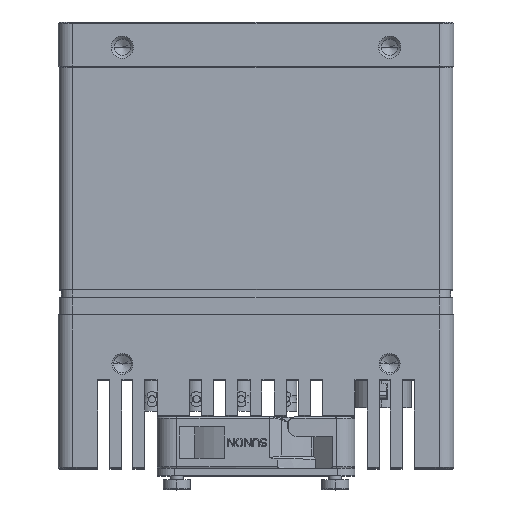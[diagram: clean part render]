
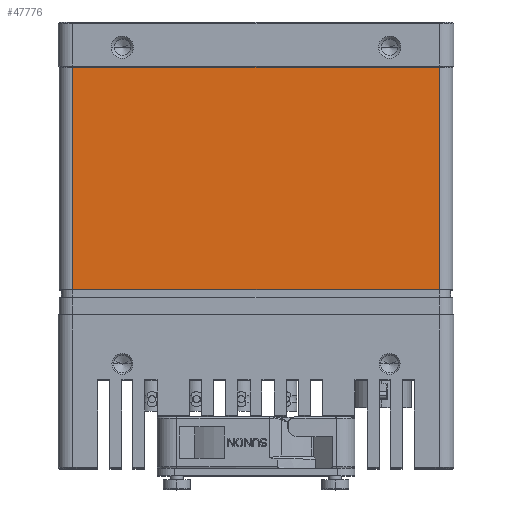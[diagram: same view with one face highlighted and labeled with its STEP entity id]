
A CAD part, top view. The second image highlights one B-rep face of the part: STEP entity #47776.
In plain terms, the highlighted planar face has unit normal (0, 0, 1).
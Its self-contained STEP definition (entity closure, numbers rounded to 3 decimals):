
#4799=DIRECTION('',(0.,1.,0.));
#4800=VECTOR('',#4799,44.9);
#4801=CARTESIAN_POINT('',(37.,-56.9,39.8));
#4802=LINE('',#4801,#4800);
#4817=DIRECTION('',(1.,0.,0.));
#4818=VECTOR('',#4817,74.);
#4819=CARTESIAN_POINT('',(-37.,-12.,39.8));
#4820=LINE('',#4819,#4818);
#4825=DIRECTION('',(-1.,0.,0.));
#4826=VECTOR('',#4825,74.);
#4827=CARTESIAN_POINT('',(37.,-56.9,39.8));
#4828=LINE('',#4827,#4826);
#4829=DIRECTION('',(0.,1.,0.));
#4830=VECTOR('',#4829,44.9);
#4831=CARTESIAN_POINT('',(-37.,-56.9,
39.8));
#4832=LINE('',#4831,#4830);
#35422=CARTESIAN_POINT('',(37.,-56.9,39.8));
#35423=VERTEX_POINT('',#35422);
#35424=CARTESIAN_POINT('',(-37.,-56.9,
39.8));
#35425=VERTEX_POINT('',#35424);
#35683=CARTESIAN_POINT('',(37.,-12.,39.8));
#35684=VERTEX_POINT('',#35683);
#35685=CARTESIAN_POINT('',(-37.,-12.,39.8));
#35686=VERTEX_POINT('',#35685);
#47763=CARTESIAN_POINT('',(-40.,0.,39.8));
#47764=DIRECTION('',(0.,0.,1.));
#47765=DIRECTION('',(1.,0.,0.));
#47766=AXIS2_PLACEMENT_3D('',#47763,#47764,#47765);
#47767=PLANE('',#47766);
#47768=ORIENTED_EDGE('',*,*,#47753,.T.);
#47769=ORIENTED_EDGE('',*,*,#47729,.F.);
#47771=ORIENTED_EDGE('',*,*,#47770,.T.);
#47773=ORIENTED_EDGE('',*,*,#47772,.T.);
#47774=EDGE_LOOP('',(#47768,#47769,#47771,#47773));
#47775=FACE_OUTER_BOUND('',#47774,.F.);
#47776=ADVANCED_FACE('',(#47775),#47767,.T.);
#47729=EDGE_CURVE('',#35423,#35684,#4802,.T.);
#47753=EDGE_CURVE('',#35686,#35684,#4820,.T.);
#47770=EDGE_CURVE('',#35423,#35425,#4828,.T.);
#47772=EDGE_CURVE('',#35425,#35686,#4832,.T.);
